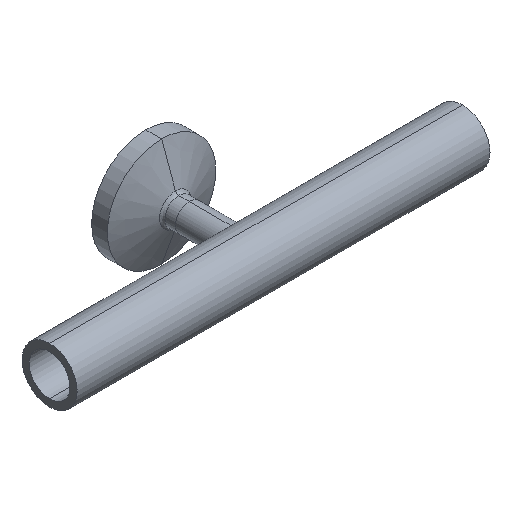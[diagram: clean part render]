
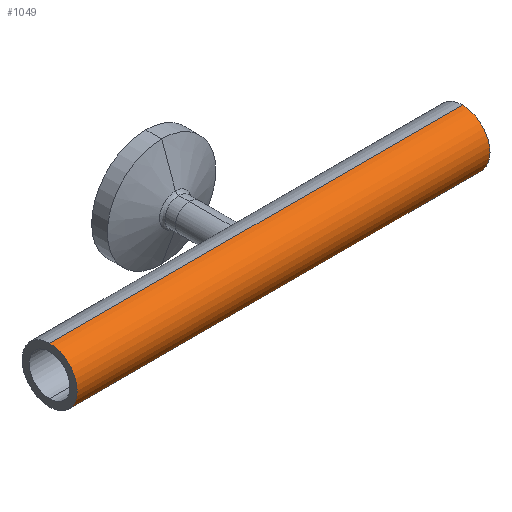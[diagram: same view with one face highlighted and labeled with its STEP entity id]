
A CAD part, isometric view. The second image highlights one B-rep face of the part: STEP entity #1049.
In plain terms, the highlighted cylindrical face has radius 6.35 mm (diameter 12.7 mm), a partial arc.
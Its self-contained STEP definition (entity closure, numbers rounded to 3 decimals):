
#35 = EDGE_LOOP ( 'NONE', ( #616, #1120, #657, #1084 ) ) ;
#182 = EDGE_CURVE ( 'NONE', #1139, #1161, #278, .T. ) ;
#190 = DIRECTION ( 'NONE',  ( 1., 0., 0. ) ) ;
#199 = CARTESIAN_POINT ( 'NONE',  ( -47.6, 0., -6.35 ) ) ;
#203 = EDGE_CURVE ( 'NONE', #835, #1159, #432, .T. ) ;
#225 = CARTESIAN_POINT ( 'NONE',  ( 47.6, 0., 0. ) ) ;
#240 = CARTESIAN_POINT ( 'NONE',  ( 47.6, 0., -6.35 ) ) ;
#278 = CIRCLE ( 'NONE', #1036, 6.35 ) ;
#373 = EDGE_CURVE ( 'NONE', #1139, #1159, #1132, .T. ) ;
#432 = CIRCLE ( 'NONE', #983, 6.35 ) ;
#512 = CARTESIAN_POINT ( 'NONE',  ( -47.6, 0., 6.35 ) ) ;
#522 = DIRECTION ( 'NONE',  ( 0., 0., -1. ) ) ;
#526 = DIRECTION ( 'NONE',  ( 1., 0., 0. ) ) ;
#528 = VECTOR ( 'NONE', #784, 1000. ) ;
#529 = CARTESIAN_POINT ( 'NONE',  ( -47.6, 0., 0. ) ) ;
#571 = VECTOR ( 'NONE', #190, 1000. ) ;
#575 = DIRECTION ( 'NONE',  ( 0., 0., -1. ) ) ;
#616 = ORIENTED_EDGE ( 'NONE', *, *, #373, .F. ) ;
#644 = DIRECTION ( 'NONE',  ( 1., 0., 0. ) ) ;
#657 = ORIENTED_EDGE ( 'NONE', *, *, #735, .T. ) ;
#709 = LINE ( 'NONE', #199, #571 ) ;
#735 = EDGE_CURVE ( 'NONE', #1161, #835, #709, .T. ) ;
#784 = DIRECTION ( 'NONE',  ( 1., 0., 0. ) ) ;
#818 = AXIS2_PLACEMENT_3D ( 'NONE', #913, #644, #982 ) ;
#828 = CARTESIAN_POINT ( 'NONE',  ( -47.6, 0., -6.35 ) ) ;
#835 = VERTEX_POINT ( 'NONE', #240 ) ;
#878 = CYLINDRICAL_SURFACE ( 'NONE', #818, 6.35 ) ;
#913 = CARTESIAN_POINT ( 'NONE',  ( -47.6, 0., 0. ) ) ;
#922 = CARTESIAN_POINT ( 'NONE',  ( -47.6, 0., 6.35 ) ) ;
#982 = DIRECTION ( 'NONE',  ( 0., 0., -1. ) ) ;
#983 = AXIS2_PLACEMENT_3D ( 'NONE', #225, #1056, #575 ) ;
#1036 = AXIS2_PLACEMENT_3D ( 'NONE', #529, #526, #522 ) ;
#1049 = ADVANCED_FACE ( 'NONE', ( #1094 ), #878, .T. ) ;
#1056 = DIRECTION ( 'NONE',  ( -1., 0., 0. ) ) ;
#1079 = CARTESIAN_POINT ( 'NONE',  ( 47.6, 0., 6.35 ) ) ;
#1084 = ORIENTED_EDGE ( 'NONE', *, *, #203, .T. ) ;
#1094 = FACE_OUTER_BOUND ( 'NONE', #35, .T. ) ;
#1120 = ORIENTED_EDGE ( 'NONE', *, *, #182, .T. ) ;
#1132 = LINE ( 'NONE', #922, #528 ) ;
#1139 = VERTEX_POINT ( 'NONE', #512 ) ;
#1159 = VERTEX_POINT ( 'NONE', #1079 ) ;
#1161 = VERTEX_POINT ( 'NONE', #828 ) ;
